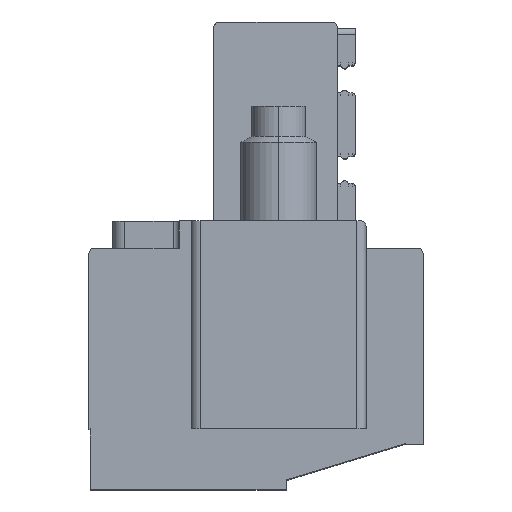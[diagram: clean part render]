
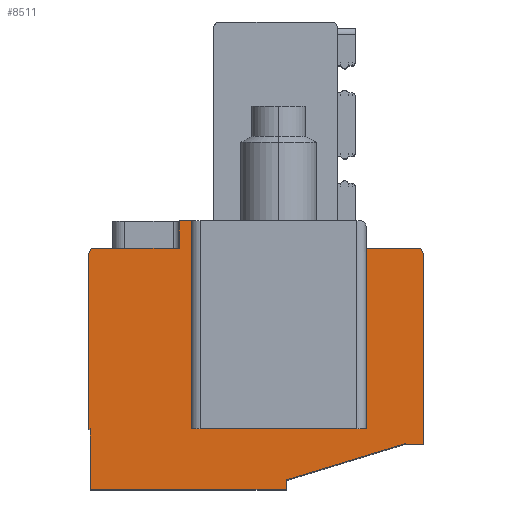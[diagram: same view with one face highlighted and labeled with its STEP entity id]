
A CAD part, top view. The second image highlights one B-rep face of the part: STEP entity #8511.
In plain terms, the highlighted planar face has unit normal (0, 0, 1).
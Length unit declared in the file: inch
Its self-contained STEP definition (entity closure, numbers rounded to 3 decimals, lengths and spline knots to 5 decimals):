
#274=DIRECTION('',(-1.,0.,0.));
#275=VECTOR('',#274,0.25591);
#276=CARTESIAN_POINT('',(0.00984,-0.20472,
0.55118));
#277=LINE('',#276,#275);
#326=CARTESIAN_POINT('',(0.1811,0.10236,
0.55118));
#327=DIRECTION('',(0.,0.,1.));
#328=DIRECTION('',(1.,0.,0.));
#329=AXIS2_PLACEMENT_3D('',#326,#327,#328);
#331=DIRECTION('',(0.956,0.292,0.));
#332=VECTOR('',#331,0.16262);
#333=CARTESIAN_POINT('',(0.00984,-0.19252,
0.55118));
#334=LINE('',#333,#332);
#335=CARTESIAN_POINT('',(-0.24016,0.10236,
0.55118));
#336=DIRECTION('',(0.,0.,1.));
#337=DIRECTION('',(0.,1.,0.));
#338=AXIS2_PLACEMENT_3D('',#335,#336,#337);
#340=DIRECTION('',(0.,1.,0.));
#341=VECTOR('',#340,0.04331);
#342=CARTESIAN_POINT('',(-0.11417,0.10236,
0.55118));
#343=LINE('',#342,#341);
#366=DIRECTION('',(-1.,0.,0.));
#367=VECTOR('',#366,0.02448);
#368=CARTESIAN_POINT('',(-0.08969,0.10236,
0.55118));
#369=LINE('',#368,#367);
#379=DIRECTION('',(1.,0.,0.));
#380=VECTOR('',#379,0.17938);
#381=CARTESIAN_POINT('',(-0.08969,-0.12598,
0.55118));
#382=LINE('',#381,#380);
#422=DIRECTION('',(0.,1.,0.));
#423=VECTOR('',#422,0.22835);
#424=CARTESIAN_POINT('',(0.08969,-0.12598,
0.55118));
#425=LINE('',#424,#423);
#458=DIRECTION('',(0.,1.,0.));
#459=VECTOR('',#458,0.00787);
#460=CARTESIAN_POINT('',(0.11417,0.10236,
0.55118));
#461=LINE('',#460,#459);
#513=DIRECTION('',(1.,0.,0.));
#514=VECTOR('',#513,0.01575);
#515=CARTESIAN_POINT('',(-0.12992,0.14567,
0.55118));
#516=LINE('',#515,#514);
#564=DIRECTION('',(0.,1.,0.));
#565=VECTOR('',#564,0.03543);
#566=CARTESIAN_POINT('',(-0.12992,0.11024,
0.55118));
#567=LINE('',#566,#565);
#595=DIRECTION('',(1.,0.,0.));
#596=VECTOR('',#595,0.11024);
#597=CARTESIAN_POINT('',(-0.24016,0.11024,
0.55118));
#598=LINE('',#597,#596);
#1467=DIRECTION('',(0.,1.,0.));
#1468=VECTOR('',#1467,0.22835);
#1469=CARTESIAN_POINT('',(-0.24803,-0.12598,
0.55118));
#1470=LINE('',#1469,#1468);
#1483=DIRECTION('',(-1.,0.,0.));
#1484=VECTOR('',#1483,0.00197);
#1485=CARTESIAN_POINT('',(-0.24606,-0.12598,
0.55118));
#1486=LINE('',#1485,#1484);
#1491=DIRECTION('',(0.,1.,0.));
#1492=VECTOR('',#1491,0.07874);
#1493=CARTESIAN_POINT('',(-0.24606,-0.20472,
0.55118));
#1494=LINE('',#1493,#1492);
#2966=DIRECTION('',(0.,-1.,0.));
#2967=VECTOR('',#2966,0.0122);
#2968=CARTESIAN_POINT('',(0.00984,-0.19252,
0.55118));
#2969=LINE('',#2968,#2967);
#2978=DIRECTION('',(0.,1.,0.));
#2979=VECTOR('',#2978,0.00069);
#2980=CARTESIAN_POINT('',(0.16535,-0.14567,
0.55118));
#2981=LINE('',#2980,#2979);
#2994=DIRECTION('',(-1.,0.,0.));
#2995=VECTOR('',#2994,0.02362);
#2996=CARTESIAN_POINT('',(0.18898,-0.14567,
0.55118));
#2997=LINE('',#2996,#2995);
#3026=DIRECTION('',(0.,-1.,0.));
#3027=VECTOR('',#3026,0.24803);
#3028=CARTESIAN_POINT('',(0.18898,0.10236,
0.55118));
#3029=LINE('',#3028,#3027);
#3086=DIRECTION('',(-1.,0.,0.));
#3087=VECTOR('',#3086,0.06693);
#3088=CARTESIAN_POINT('',(0.1811,0.11024,
0.55118));
#3089=LINE('',#3088,#3087);
#5858=DIRECTION('',(-1.,0.,0.));
#5859=VECTOR('',#5858,0.02448);
#5860=CARTESIAN_POINT('',(0.11417,0.10236,
0.55118));
#5861=LINE('',#5860,#5859);
#5872=DIRECTION('',(0.,-1.,0.));
#5873=VECTOR('',#5872,0.22835);
#5874=CARTESIAN_POINT('',(-0.08969,0.10236,
0.55118));
#5875=LINE('',#5874,#5873);
#6672=CARTESIAN_POINT('',(-0.08969,0.10236,
0.55118));
#6673=CARTESIAN_POINT('',(-0.08969,-0.12598,
0.55118));
#6674=VERTEX_POINT('',#6672);
#6675=VERTEX_POINT('',#6673);
#6676=CARTESIAN_POINT('',(0.08969,-0.12598,
0.55118));
#6677=VERTEX_POINT('',#6676);
#6678=CARTESIAN_POINT('',(0.08969,0.10236,
0.55118));
#6679=VERTEX_POINT('',#6678);
#6680=CARTESIAN_POINT('',(0.11417,0.10236,
0.55118));
#6681=CARTESIAN_POINT('',(0.11417,0.11024,
0.55118));
#6682=VERTEX_POINT('',#6680);
#6683=VERTEX_POINT('',#6681);
#6684=CARTESIAN_POINT('',(0.18898,0.10236,
0.55118));
#6685=CARTESIAN_POINT('',(0.18898,-0.14567,
0.55118));
#6686=VERTEX_POINT('',#6684);
#6687=VERTEX_POINT('',#6685);
#6688=CARTESIAN_POINT('',(0.16535,-0.14567,
0.55118));
#6689=VERTEX_POINT('',#6688);
#6690=CARTESIAN_POINT('',(0.00984,-0.19252,
0.55118));
#6691=CARTESIAN_POINT('',(0.16535,-0.14497,
0.55118));
#6692=VERTEX_POINT('',#6690);
#6693=VERTEX_POINT('',#6691);
#6694=CARTESIAN_POINT('',(0.00984,-0.20472,
0.55118));
#6695=VERTEX_POINT('',#6694);
#6696=CARTESIAN_POINT('',(-0.24606,-0.20472,
0.55118));
#6697=VERTEX_POINT('',#6696);
#6698=CARTESIAN_POINT('',(-0.24606,-0.12598,
0.55118));
#6699=VERTEX_POINT('',#6698);
#6700=CARTESIAN_POINT('',(-0.24803,-0.12598,
0.55118));
#6701=VERTEX_POINT('',#6700);
#6702=CARTESIAN_POINT('',(-0.24803,0.10236,
0.55118));
#6703=VERTEX_POINT('',#6702);
#6704=CARTESIAN_POINT('',(-0.24016,0.11024,
0.55118));
#6705=CARTESIAN_POINT('',(-0.12992,0.11024,
0.55118));
#6706=VERTEX_POINT('',#6704);
#6707=VERTEX_POINT('',#6705);
#6708=CARTESIAN_POINT('',(-0.12992,0.14567,
0.55118));
#6709=VERTEX_POINT('',#6708);
#6710=CARTESIAN_POINT('',(-0.11417,0.14567,
0.55118));
#6711=VERTEX_POINT('',#6710);
#7310=CARTESIAN_POINT('',(0.1811,0.11024,
0.55118));
#7311=VERTEX_POINT('',#7310);
#7953=CARTESIAN_POINT('',(-0.11417,0.10236,
0.55118));
#7955=VERTEX_POINT('',#7953);
#8461=CARTESIAN_POINT('',(-0.02953,-0.02953,
0.55118));
#8462=DIRECTION('',(0.,0.,1.));
#8463=DIRECTION('',(1.,0.,0.));
#8464=AXIS2_PLACEMENT_3D('',#8461,#8462,#8463);
#8465=PLANE('',#8464);
#8467=ORIENTED_EDGE('',*,*,#8466,.F.);
#8469=ORIENTED_EDGE('',*,*,#8468,.F.);
#8471=ORIENTED_EDGE('',*,*,#8470,.T.);
#8473=ORIENTED_EDGE('',*,*,#8472,.T.);
#8475=ORIENTED_EDGE('',*,*,#8474,.T.);
#8477=ORIENTED_EDGE('',*,*,#8476,.F.);
#8479=ORIENTED_EDGE('',*,*,#8478,.T.);
#8481=ORIENTED_EDGE('',*,*,#8480,.F.);
#8483=ORIENTED_EDGE('',*,*,#8482,.F.);
#8485=ORIENTED_EDGE('',*,*,#8484,.T.);
#8487=ORIENTED_EDGE('',*,*,#8486,.T.);
#8489=ORIENTED_EDGE('',*,*,#8488,.T.);
#8491=ORIENTED_EDGE('',*,*,#8490,.F.);
#8493=ORIENTED_EDGE('',*,*,#8492,.T.);
#8494=ORIENTED_EDGE('',*,*,#8414,.T.);
#8496=ORIENTED_EDGE('',*,*,#8495,.T.);
#8498=ORIENTED_EDGE('',*,*,#8497,.T.);
#8500=ORIENTED_EDGE('',*,*,#8499,.T.);
#8502=ORIENTED_EDGE('',*,*,#8501,.F.);
#8504=ORIENTED_EDGE('',*,*,#8503,.T.);
#8506=ORIENTED_EDGE('',*,*,#8505,.T.);
#8508=ORIENTED_EDGE('',*,*,#8507,.T.);
#8509=EDGE_LOOP('',(#8467,#8469,#8471,#8473,#8475,#8477,#8479,#8481,#8483,#8485,
#8487,#8489,#8491,#8493,#8494,#8496,#8498,#8500,#8502,#8504,#8506,#8508));
#8510=FACE_OUTER_BOUND('',#8509,.F.);
#8511=ADVANCED_FACE('',(#8510),#8465,.T.);
#330=CIRCLE('',#329,0.00787);
#339=CIRCLE('',#338,0.00787);
#8414=EDGE_CURVE('',#6695,#6697,#277,.T.);
#8466=EDGE_CURVE('',#7955,#6711,#343,.T.);
#8468=EDGE_CURVE('',#6674,#7955,#369,.T.);
#8470=EDGE_CURVE('',#6674,#6675,#5875,.T.);
#8472=EDGE_CURVE('',#6675,#6677,#382,.T.);
#8474=EDGE_CURVE('',#6677,#6679,#425,.T.);
#8476=EDGE_CURVE('',#6682,#6679,#5861,.T.);
#8478=EDGE_CURVE('',#6682,#6683,#461,.T.);
#8480=EDGE_CURVE('',#7311,#6683,#3089,.T.);
#8482=EDGE_CURVE('',#6686,#7311,#330,.T.);
#8484=EDGE_CURVE('',#6686,#6687,#3029,.T.);
#8486=EDGE_CURVE('',#6687,#6689,#2997,.T.);
#8488=EDGE_CURVE('',#6689,#6693,#2981,.T.);
#8490=EDGE_CURVE('',#6692,#6693,#334,.T.);
#8492=EDGE_CURVE('',#6692,#6695,#2969,.T.);
#8495=EDGE_CURVE('',#6697,#6699,#1494,.T.);
#8497=EDGE_CURVE('',#6699,#6701,#1486,.T.);
#8499=EDGE_CURVE('',#6701,#6703,#1470,.T.);
#8501=EDGE_CURVE('',#6706,#6703,#339,.T.);
#8503=EDGE_CURVE('',#6706,#6707,#598,.T.);
#8505=EDGE_CURVE('',#6707,#6709,#567,.T.);
#8507=EDGE_CURVE('',#6709,#6711,#516,.T.);
